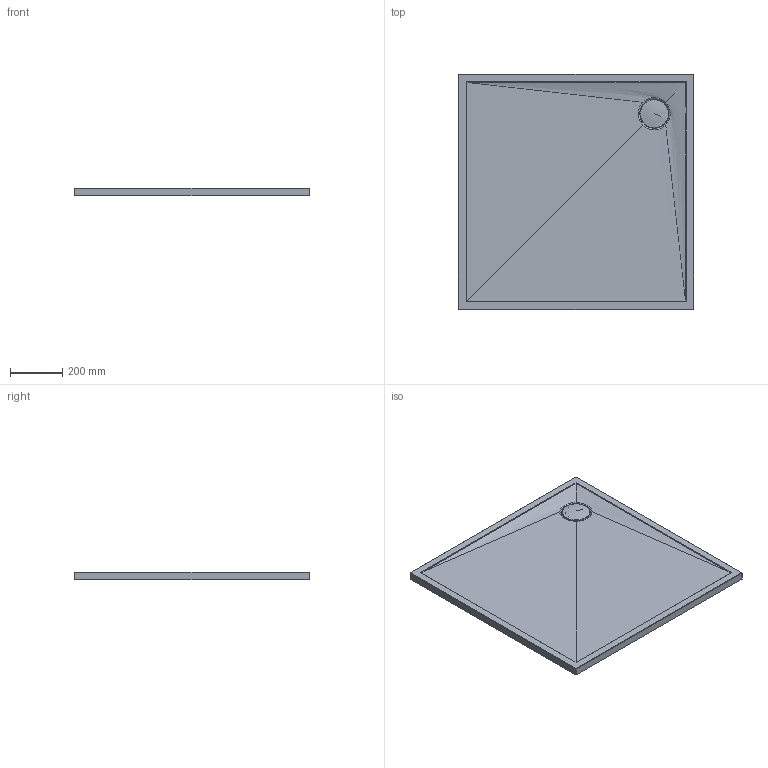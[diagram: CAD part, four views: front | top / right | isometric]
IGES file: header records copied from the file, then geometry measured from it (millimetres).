
Global section: file name: 5483f4f0-35ae-4d14-92e2-32d49e2e6581; native system: unknown; preprocessor: unknown; author: unknown; organization: unknown; date: 20200320.104437; units: millimetre
Bounding box: 900 x 900 x 30 mm (x, y, z)
Volume: 20227204.1 mm3; surface area: 1738408.8 mm2
Topology: 2 solids, 2 shells, 34 faces, 82 edges, 52 vertices
Faces by surface type: bspline 34
